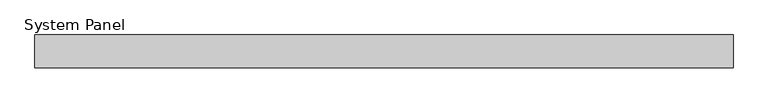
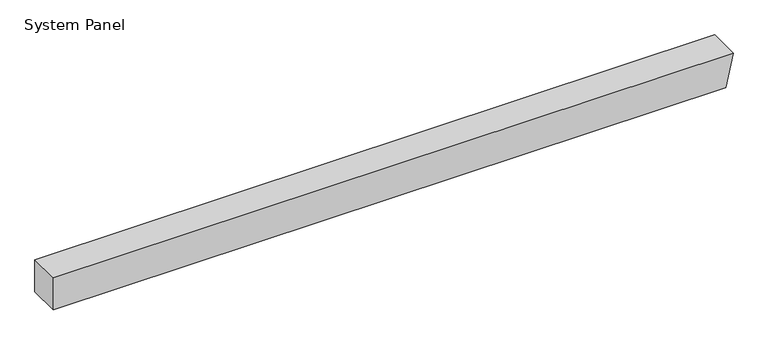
"""IFC4 building model written with IfcOpenShell, lengths in millimetres: plate geometry, System Panel : Equitilt 75mm Horizontal - Plain RHEA - EPS-FR."""

import ifcopenshell
import ifcopenshell.guid

model = None  # the IFC model being written
_history = None  # IfcOwnerHistory: only IFC2X3 demands one
_inside = {}  # id of a spatial element -> (the spatial element, [elements in it])
_under = {}  # id of a project, library or spatial element -> (it, [spatial elements below it])
_declared = {}  # id of a project -> (the project, [libraries it declares])
_typed = {}  # id of a type object -> (the type object, [elements of that type])
_made_of = {}  # id of a material, layer set ... -> (it, [elements and type objects made of it])


def new_model(schema):
    """Start an empty IFC model of exactly this schema.

    Asked for "IFC4X3", IfcOpenShell would pick the latest addendum, in which some entities
    have other attributes; the version numbers below select the first issue.
    IFC2X3 requires an IfcOwnerHistory on every rooted entity: one is made here for all.
    """
    global model, _history
    if schema == "IFC4X3":
        model = ifcopenshell.file(schema_version=(4, 3, 0, 0))
    else:
        model = ifcopenshell.file(schema=schema)
    _inside.clear()
    _under.clear()
    _declared.clear()
    _typed.clear()
    _made_of.clear()
    _history = None
    if model.schema == "IFC2X3":
        org = make("IfcOrganization", Name="unknown")
        user = make(
            "IfcPersonAndOrganization",
            ThePerson=make("IfcPerson", FamilyName="unknown"),
            TheOrganization=org,
        )
        app = make(
            "IfcApplication",
            ApplicationDeveloper=org,
            Version="unknown",
            ApplicationFullName="unknown",
            ApplicationIdentifier="unknown",
        )
        _history = make(
            "IfcOwnerHistory",
            OwningUser=user,
            OwningApplication=app,
            ChangeAction="ADDED",
            CreationDate=0,
        )
    return model


def make(cls, **values):
    """One entity of the class cls with the attributes given. An attribute that is None is left unset."""
    return model.create_entity(
        cls, **{name: value for name, value in values.items() if value is not None}
    )


def rooted(cls, **values):
    """An entity with a GlobalId (a new one), such as an element, a storey or a relation."""
    return make(cls, GlobalId=ifcopenshell.guid.new(), OwnerHistory=_history, **values)


def si_unit(unit_type, name, prefix=None):
    """IfcSIUnit, for example si_unit("LENGTHUNIT", "METRE", prefix="MILLI")."""
    return make("IfcSIUnit", UnitType=unit_type, Prefix=prefix, Name=name)


def assignment(units):
    """IfcUnitAssignment: the units of a project."""
    return None if units is None else make("IfcUnitAssignment", Units=units)


def point(xyz):
    """IfcCartesianPoint."""
    return None if xyz is None else make("IfcCartesianPoint", Coordinates=xyz)


def direction(xyz):
    """IfcDirection."""
    return None if xyz is None else make("IfcDirection", DirectionRatios=xyz)


def frame(location, z_axis=None, x_axis=None):
    """IfcAxis2Placement3D, a coordinate frame: its origin and axes. An axis left out is left unset."""
    return make(
        "IfcAxis2Placement3D",
        Location=point(location),
        Axis=direction(z_axis),
        RefDirection=direction(x_axis),
    )


def origin():
    """The frame at (0, 0, 0) with its axes left unset."""
    return frame((0.0, 0.0, 0.0))


def place(relative_to, where):
    """IfcLocalPlacement: puts the frame where relative to a parent placement (None: the world)."""
    return make(
        "IfcLocalPlacement", PlacementRelTo=relative_to, RelativePlacement=where
    )


def context(
    kind, dimensions, precision=None, world=None, true_north=None, identifier=None
):
    """IfcGeometricRepresentationContext, for example the 3D "Model" context."""
    return make(
        "IfcGeometricRepresentationContext",
        ContextIdentifier=identifier,
        ContextType=kind,
        CoordinateSpaceDimension=dimensions,
        Precision=precision,
        WorldCoordinateSystem=world,
        TrueNorth=true_north,
    )


def project(units=None, contexts=None):
    """IfcProject with its units and contexts."""
    return rooted(
        "IfcProject",
        Name="project",
        RepresentationContexts=contexts,
        UnitsInContext=assignment(units),
    )


def spatial(cls, under=None, at=None, **own):
    """A site, building, storey or space (cls), placed at a placement, below another one or the project."""
    s = rooted(cls, ObjectPlacement=at, **own)
    if under is not None:
        _under.setdefault(under.id(), (under, []))[1].append(s)
    return s


def polyline(points):
    """IfcPolyline through the points."""
    return make("IfcPolyline", Points=[point(p) for p in points])


def outline(outer, holes=None, kind="AREA"):
    """IfcArbitraryClosedProfileDef: a profile drawn as a closed curve; with holes, ...WithVoids."""
    if holes is None:
        return make("IfcArbitraryClosedProfileDef", ProfileType=kind, OuterCurve=outer)
    return make(
        "IfcArbitraryProfileDefWithVoids",
        ProfileType=kind,
        OuterCurve=outer,
        InnerCurves=holes,
    )


def extrude(swept, where, along, depth):
    """IfcExtrudedAreaSolid: the profile swept, set in the frame where, extruded along a direction by depth."""
    return make(
        "IfcExtrudedAreaSolid",
        SweptArea=swept,
        Position=where,
        ExtrudedDirection=direction(along),
        Depth=depth,
    )


def shape(context_of_items, identifier, shape_type, items):
    """IfcShapeRepresentation: the items that make up one representation, for example the "Body"."""
    return make(
        "IfcShapeRepresentation",
        ContextOfItems=context_of_items,
        RepresentationIdentifier=identifier,
        RepresentationType=shape_type,
        Items=items,
    )


def source(mapping_origin, context_of_items, identifier, shape_type, items):
    """IfcRepresentationMap: a shape defined once, which mapped items show again and again."""
    return make(
        "IfcRepresentationMap",
        MappingOrigin=mapping_origin,
        MappedRepresentation=shape(context_of_items, identifier, shape_type, items),
    )


def transform(
    local_origin,
    x_axis=None,
    y_axis=None,
    z_axis=None,
    scale=None,
    scale2=None,
    scale3=None,
    uniform=True,
):
    """IfcCartesianTransformationOperator3D, or its non-uniform kind. x_axis, y_axis, z_axis: its Axis1, 2, 3."""
    if uniform:
        return make(
            "IfcCartesianTransformationOperator3D",
            Axis1=direction(x_axis),
            Axis2=direction(y_axis),
            LocalOrigin=point(local_origin),
            Scale=scale,
            Axis3=direction(z_axis),
        )
    return make(
        "IfcCartesianTransformationOperator3DnonUniform",
        Axis1=direction(x_axis),
        Axis2=direction(y_axis),
        LocalOrigin=point(local_origin),
        Scale=scale,
        Axis3=direction(z_axis),
        Scale2=scale2,
        Scale3=scale3,
    )


def mapped(mapping_source, mapping_target):
    """IfcMappedItem: shows the shape of a source again, moved by a transform."""
    return make(
        "IfcMappedItem", MappingSource=mapping_source, MappingTarget=mapping_target
    )


def made_of(thing, what):
    """Note that an element or type object is made of a material, layer set ...; save() writes the relation."""
    if what is not None:
        _made_of.setdefault(what.id(), (what, []))[1].append(thing)
    return thing


def element(
    cls,
    number,
    at=None,
    inside=None,
    cuts=None,
    type_object=None,
    material=None,
    context=None,
    identifier="Body",
    shape_type=None,
    held_by="IfcProductDefinitionShape",
    body=None,
    shapes=None,
    **own,
):
    """One element of the class cls, such as IfcWall. Its Tag is "e" and its number.

    at: its placement. inside: the storey or other place that contains it. cuts: it is an
    opening in that element (IfcRelVoidsElement). A single representation is given by context,
    identifier, shape_type and body (its items); several are given by shapes. held_by: the class
    of the entity that holds the representations. save() writes the other relations.
    """
    e = rooted(cls, Tag="e%d" % number, ObjectPlacement=at, **own)
    if body is not None:
        shapes = [shape(context, identifier, shape_type, body)]
    if shapes is not None:
        e.Representation = make(held_by, Representations=shapes)
    if inside is not None:
        _inside.setdefault(inside.id(), (inside, []))[1].append(e)
    if cuts is not None:
        rooted(
            "IfcRelVoidsElement", RelatingBuildingElement=cuts, RelatedOpeningElement=e
        )
    if type_object is not None:
        _typed.setdefault(type_object.id(), (type_object, []))[1].append(e)
    return made_of(e, material)


def aggregate(whole, parts):
    """IfcRelAggregates: a whole, such as a stair, and the parts it consists of."""
    return rooted("IfcRelAggregates", RelatingObject=whole, RelatedObjects=parts)


def save(model, path):
    """Write the relations noted so far, then the file.

    IfcRelAggregates (storeys below a building ...), IfcRelContainedInSpatialStructure (elements
    in a storey), IfcRelDefinesByType, IfcRelAssociatesMaterial and IfcRelDeclares: one each for
    every whole, place, type object, material and project.
    """
    for whole, parts in _under.values():
        aggregate(whole, parts)
    for where, things in _inside.values():
        rooted(
            "IfcRelContainedInSpatialStructure",
            RelatedElements=things,
            RelatingStructure=where,
        )
    for kind, things in _typed.values():
        rooted("IfcRelDefinesByType", RelatedObjects=things, RelatingType=kind)
    for what, things in _made_of.values():
        rooted("IfcRelAssociatesMaterial", RelatedObjects=things, RelatingMaterial=what)
    for by, libraries in _declared.values():
        rooted("IfcRelDeclares", RelatingContext=by, RelatedDefinitions=libraries)
    model.write(path)


def system_panel_2d20ec1c(model_context):
    return source(origin(), model_context, "Body", "SweptSolid", [
        extrude(outline(polyline([(0.0, -800.0), (0.0, 782.6149856), (79.9704237, 800.0), (79.9704237, -800.0), (0.0, -800.0)])), frame((0.0, -75.0, 0.0), z_axis=(0.0, 1.0, 0.0), x_axis=(0.0, 0.0, 1.0)), (0.0, 0.0, 1.0), 75.0),
    ])


if __name__ == "__main__":
    model = new_model("IFC4")
    model_context = context("Model", 3, world=origin())
    ifc_project = project(units=[si_unit("LENGTHUNIT", "METRE", prefix="MILLI")], contexts=[model_context])
    site = spatial("IfcSite", under=ifc_project)
    building = spatial("IfcBuilding", under=site)
    placement = place(None, origin())
    system_panel_shape = system_panel_2d20ec1c(model_context)
    element("IfcPlate", 1, ObjectType="System Panel : Equitilt 75mm Horizontal - Plain RHEA - EPS-FR", at=placement, inside=building, context=model_context, shape_type="MappedRepresentation", body=[
        mapped(system_panel_shape, transform((0.0, 0.0, 0.0), x_axis=(1.0, 0.0, 0.0), y_axis=(0.0, 1.0, 0.0), z_axis=(0.0, 0.0, 1.0))),
    ])
    save(model, "model.ifc")
